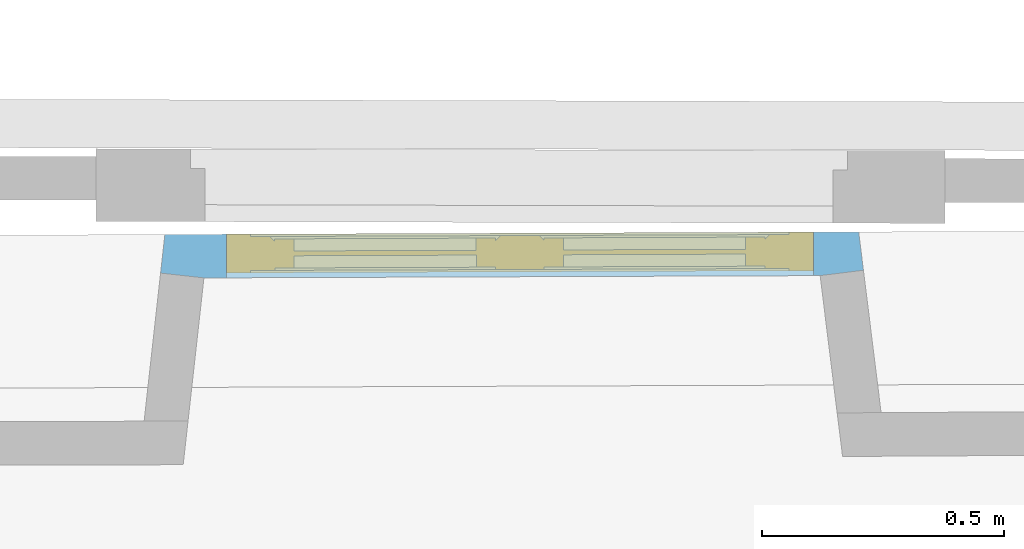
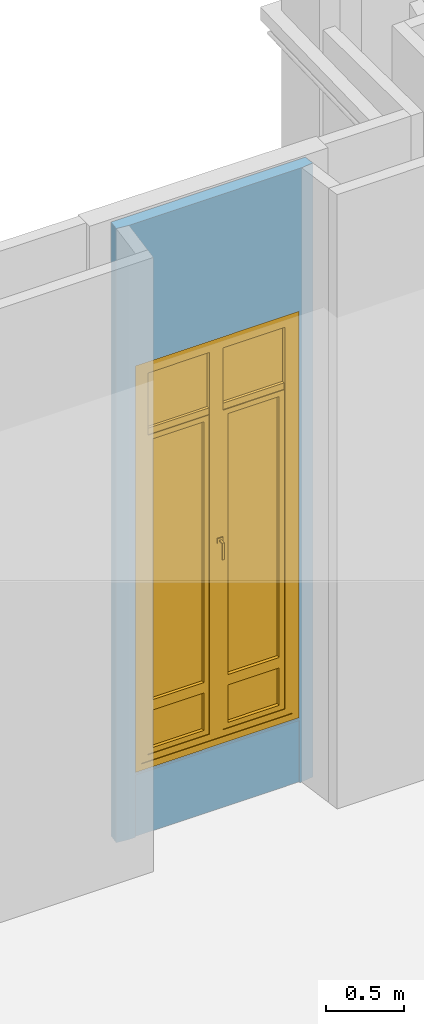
# One storey, part 68 of 97: 1 window, 2 openings, plus 1 element that does not belong to this part.
"""IFC2X3 building model written with IfcOpenShell, lengths in centimetres."""

from ifc_helpers import new_model, entity, si_unit, converted_unit, direction, frame, origin, origin_with_axes, place, context, subcontext, project, spatial, polyline, outline, extrude, faceted_brep, shape, source, transform, mapped, material, material_list, layer, layer_set, layer_usage, type_object, element, fill, save


model = new_model("IFC2X3")

# Units and contexts
model_context = context("Model", 3, precision=0.0001, world=origin(), true_north=direction((0.225632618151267, 0.974212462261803, 0.0)))
body_context = subcontext(model_context, "Body", "Model", "MODEL_VIEW")
footprint_context = subcontext(model_context, "FootPrint", "Model", "MODEL_VIEW")
profile_context = subcontext(model_context, "Profile", "Model", "MODEL_VIEW")
ifc_project = project(units=[si_unit("LENGTHUNIT", "METRE", prefix="CENTI"), si_unit("AREAUNIT", "SQUARE_METRE", prefix="CENTI"), si_unit("VOLUMEUNIT", "CUBIC_METRE", prefix="CENTI"), converted_unit("PLANEANGLEUNIT", "DEGREE", entity("IfcRatioMeasure", 0.0174532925), si_unit("PLANEANGLEUNIT", "RADIAN"), dimensions=[0, 0, 0, 0, 0, 0, 0])], contexts=[model_context])

# Site, building, storey
site_placement = place(None, origin_with_axes())
site = spatial("IfcSite", under=ifc_project, at=site_placement, Name="Default Site", CompositionType="ELEMENT")
building_placement = place(site_placement, origin_with_axes())
building = spatial("IfcBuilding", under=site, at=building_placement, Name="Default Building", CompositionType="ELEMENT")
storey_placement = place(building_placement, origin_with_axes())
storey = spatial("IfcBuildingStorey", under=building, at=storey_placement, Name="Rez-de-chaussée", CompositionType="ELEMENT", Elevation=0.0)

# Wall, openings, window
ifc_material_1 = material(Name="<aucun>")
ifc_layer = layer(ifc_material_1, 9.0)
ifc_layer_set = layer_set([ifc_layer], Name="default")
ifc_layer_usage = layer_usage(ifc_layer_set, "AXIS2", "POSITIVE", -4.5)
wall_type = type_object("IfcWallType", Name="default 90", PredefinedType="NOTDEFINED", material=ifc_layer_set)
wall_placement = place(storey_placement, frame((27.0714279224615, 588.961507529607, 0.0128503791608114), z_axis=(0.0, 0.0, 1.0), x_axis=(0.999993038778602, 0.0037312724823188, 0.0)))
wall = element("IfcWallStandardCase", 1, at=wall_placement, inside=storey, type_object=wall_type, material=ifc_layer_usage, Name="Enveloppe 669857", context=body_context, shape_type="SweptSolid", body=[
    extrude(outline(polyline([(-4.92854045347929, -3.47288254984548), (4.01265799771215, -4.50000000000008), (131.180335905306, -4.4999999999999), (140.115926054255, -3.4251843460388), (139.162646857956, 4.50000000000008), (-4.01265799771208, 4.50000000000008), (-4.92854045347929, -3.47288254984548)])), frame((0.0, 0.0, 5.42101086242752e-18), z_axis=(0.0, 0.0, 1.0), x_axis=(1.0, 0.0, 0.0)), (0.0, 0.0, 1.0), 477.795358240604),
])
opening_1_placement = place(wall_placement, frame((8.65726307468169, 1.13686837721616e-13, 8.88195766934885e-14), z_axis=(0.0, 0.0, 1.0), x_axis=(-1.0, 8.06646416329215e-17, 0.0)))
cartesian_point_1 = entity("IfcCartesianPoint", [0.0, 0.0, 48.5])
cartesian_point_2 = entity("IfcCartesianPoint", [-121.149203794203, -4.50000000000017])
element("IfcOpeningElement", 2, at=opening_1_placement, cuts=wall, Name="Baie 30040", ObjectType="Recess", shapes=[
    shape(body_context, "Body", "Brep", [faceted_brep([(8.06049327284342e-07, 24.4999907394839, -4.62696553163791e-10), (-121.149199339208, 24.4999907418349, -4.62696553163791e-10), (-121.149199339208, 24.4999907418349, 48.4999988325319), (8.06049327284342e-07, 24.4999907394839, 48.4999988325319), (8.05641805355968e-07, 3.499983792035, 48.4999988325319), (8.05641805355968e-07, 3.499983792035, -4.62696553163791e-10), (3.24016175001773e-07, 3.499983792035, -4.62696553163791e-10), (-121.149199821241, 3.49998284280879, -4.62696553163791e-10), (-121.149199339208, 24.4999897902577, -4.62696553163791e-10), (-121.149199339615, 3.49998284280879, -4.62696553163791e-10), (-121.149199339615, 3.49998284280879, 48.4999988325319), (-121.149199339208, 24.4999897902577, 48.4999988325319), (-121.149199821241, 3.49998284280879, 48.4999988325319), (3.24016175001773e-07, 3.499983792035, 48.4999988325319), (3.24016174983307e-07, 3.49998284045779, -4.62696553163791e-10), (3.24016174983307e-07, 3.49998284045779, 48.4999988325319)], [[[0, 1, 2, 3]], [[3, 4, 5, 0]], [[0, 6, 7, 8]], [[8, 9, 10, 11]], [[11, 12, 13, 3]], [[12, 7, 14, 15]]])]),
    shape(profile_context, "Profile", "GeometricCurveSet", [entity("IfcGeometricCurveSet", [entity("IfcPolyline", [cartesian_point_1, entity("IfcCartesianPoint", [0.0, 0.0, 0.0]), entity("IfcCartesianPoint", [-121.149203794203, -8.88178419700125e-14, 0.0]), entity("IfcCartesianPoint", [-121.149203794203, -8.88178419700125e-14, 48.5]), cartesian_point_1])])]),
    shape(footprint_context, "FootPrint", "GeometricCurveSet", [entity("IfcGeometricCurveSet", [entity("IfcPolyline", [cartesian_point_2, entity("IfcCartesianPoint", [0.0, -4.50000000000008]), entity("IfcCartesianPoint", [5.55111512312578e-15, 4.49999999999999]), entity("IfcCartesianPoint", [-121.149203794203, 4.49999999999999]), cartesian_point_2])])]),
])
opening_2_placement = place(wall_placement, frame((8.65726307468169, 1.13686837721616e-13, 49.8226471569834), z_axis=(0.0, 0.0, 1.0), x_axis=(-1.0, 8.06646416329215e-17, 0.0)))
cartesian_point_3 = entity("IfcCartesianPoint", [0.0, 0.0, 317.0])
cartesian_point_4 = entity("IfcCartesianPoint", [-121.149203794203, -4.50000000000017])
opening_2 = element("IfcOpeningElement", 3, at=opening_2_placement, cuts=wall, Name="4294966450_11", ObjectType="Opening", shapes=[
    shape(body_context, "Body", "SweptSolid", [extrude(outline(polyline([(0.0, 317.0), (0.0, 0.0), (121.149203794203, 0.0), (121.149203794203, 317.0), (0.0, 317.0)])), frame((0.0, -14.5, 0.0), z_axis=(0.0, 1.0, 0.0), x_axis=(-1.0, 0.0, 0.0)), (0.0, 0.0, 1.0), 29.0)]),
    shape(profile_context, "Profile", "GeometricCurveSet", [entity("IfcGeometricCurveSet", [entity("IfcPolyline", [cartesian_point_3, entity("IfcCartesianPoint", [0.0, 0.0, 0.0]), entity("IfcCartesianPoint", [-121.149203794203, -8.88178419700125e-14, 0.0]), entity("IfcCartesianPoint", [-121.149203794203, -8.88178419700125e-14, 317.0]), cartesian_point_3])])]),
    shape(footprint_context, "FootPrint", "GeometricCurveSet", [entity("IfcGeometricCurveSet", [entity("IfcPolyline", [cartesian_point_4, entity("IfcCartesianPoint", [0.0, -4.50000000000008]), entity("IfcCartesianPoint", [5.55111512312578e-15, 4.49999999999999]), entity("IfcCartesianPoint", [-121.149203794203, 4.49999999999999]), cartesian_point_4])])]),
])
ifc_material_2 = material(Name="Transparent")
ifc_material_3 = material(Name="Blanc trafic")
ifc_material_4 = material(Name="Aluminium satiné")
ifc_material_5 = material(Name="Blanc trafic")
ifc_material_list = material_list([ifc_material_2, ifc_material_3, ifc_material_4, ifc_material_5])
window_style = type_object("IfcWindowStyle", Name="FN[R] 2VB[2V] MM", ConstructionType="NOTDEFINED", OperationType="NOTDEFINED", ParameterTakesPrecedence=False, Sizeable=False, material=ifc_material_list)
shared_shape = source(origin_with_axes(), body_context, "Body", "Brep", [
    faceted_brep([(-55.5746018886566, 311.999988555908, -3.99999991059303), (-55.5746018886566, 311.999988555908, 3.99999991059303), (-55.5746018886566, 5.00000007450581, 3.99999991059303), (-55.5746018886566, 5.00000007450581, -3.99999991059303), (-60.5746030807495, 317.000007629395, 3.99999991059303), (-60.5746030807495, -1.11022302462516e-14, 3.99999991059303), (-60.5746030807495, 317.000007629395, -3.99999991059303), (-60.5746030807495, -1.11022302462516e-14, -3.99999991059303), (55.5746018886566, 5.00000007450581, 3.99999991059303), (55.5746018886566, 5.00000007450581, -3.99999991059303), (60.5746030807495, -1.11022302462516e-14, 3.99999991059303), (60.5746030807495, -1.11022302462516e-14, -3.99999991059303), (55.5746018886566, 311.999988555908, 3.99999991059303), (55.5746018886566, 311.999988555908, -3.99999991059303), (60.5746030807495, 317.000007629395, 3.99999991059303), (60.5746030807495, 317.000007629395, -3.99999991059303)], [[[0, 1, 2, 3]], [[1, 4, 5, 2]], [[4, 6, 7, 5]], [[6, 0, 3, 7]], [[3, 2, 8, 9]], [[2, 5, 10, 8]], [[5, 7, 11, 10]], [[7, 3, 9, 11]], [[9, 8, 12, 13]], [[8, 10, 14, 12]], [[10, 11, 15, 14]], [[11, 9, 13, 15]], [[13, 12, 1, 0]], [[12, 14, 4, 1]], [[14, 15, 6, 4]], [[15, 13, 0, 6]]]),
    faceted_brep([(-51.5745997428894, 307.999992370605, -3.50000001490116), (-50.5746002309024, 306.99999332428, -2.50000050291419), (-50.5746002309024, 10.0000001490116, -2.50000050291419), (-51.5745997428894, 9.00000035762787, -3.50000001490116), (-50.5746006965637, 306.99999332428, -2.5000000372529), (-50.5746006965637, 306.99999332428, 3.50000001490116), (-50.5746006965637, 10.0000001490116, 3.50000001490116), (-50.5746006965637, 10.0000001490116, -2.5000000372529), (-55.5746018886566, 311.999988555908, 3.50000001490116), (-55.5746018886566, 5.00000007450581, 3.50000001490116), (-55.5746018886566, 311.999988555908, -3.50000001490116), (-55.5746018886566, 5.00000007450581, -3.50000001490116), (-50.5746006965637, 10.0000002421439, -2.50000013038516), (-5.00000007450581, 10.0000002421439, -2.50000013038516), (-3.99999991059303, 9.00000035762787, -3.50000001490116), (-5.00000007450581, 10.0000001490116, 3.50000001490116), (-5.00000007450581, 10.0000001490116, -2.5000000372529), (-1.11022302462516e-14, 5.00000007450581, 3.50000001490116), (-1.11022302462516e-14, 5.00000007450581, -3.50000001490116), (-4.99999998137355, 10.0000001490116, -2.49999994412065), (-4.99999998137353, 306.99999332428, -2.49999994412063), (-3.99999991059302, 307.999992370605, -3.50000001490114), (-5.00000007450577, 306.99999332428, 3.50000001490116), (-5.00000007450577, 306.99999332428, -2.5000000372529), (1.11022302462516e-14, 311.999988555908, 3.50000001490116), (-5.00000007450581, 306.99999332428, 3.50000001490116), (1.11022285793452e-14, 311.999988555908, -3.50000001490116), (1.11022285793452e-14, 311.999988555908, 3.50000001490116), (-3.99999991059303, 307.999992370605, -3.50000001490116), (1.11022302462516e-14, 311.999988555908, -3.50000001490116), (-5.00000007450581, 306.999992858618, -2.5000005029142), (-50.5746006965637, 306.999992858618, -2.5000005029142), (-5.00000007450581, 306.99999332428, -2.5000000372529)], [[[0, 1, 2, 3]], [[4, 5, 6, 7]], [[5, 8, 9, 6]], [[8, 10, 11, 9]], [[10, 0, 3, 11]], [[3, 12, 13, 14]], [[7, 6, 15, 16]], [[6, 9, 17, 15]], [[9, 11, 18, 17]], [[11, 3, 14, 18]], [[14, 19, 20, 21]], [[16, 15, 22, 23]], [[15, 17, 24, 25]], [[17, 18, 26, 27]], [[18, 14, 28, 29]], [[28, 30, 31, 0]], [[32, 25, 5, 4]], [[25, 24, 8, 5]], [[24, 29, 10, 8]], [[29, 28, 0, 10]]]),
    faceted_brep([(-5.00000007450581, 306.99999332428, -0.499999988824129), (-5.00000007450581, 263.199996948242, -0.499999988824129), (-50.5746006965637, 263.199996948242, -0.499999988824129), (-50.5746006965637, 306.99999332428, -0.499999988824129), (-50.5746006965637, 306.99999332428, 0.499999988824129), (-50.5746006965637, 263.199996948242, 0.499999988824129), (-5.00000007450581, 263.199996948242, 0.499999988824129), (-5.00000007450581, 306.99999332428, 0.499999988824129)], [[[0, 1, 2, 3]], [[4, 5, 6, 7]], [[3, 2, 5, 4]], [[2, 1, 6, 5]], [[1, 0, 7, 6]], [[0, 3, 4, 7]]]),
    faceted_brep([(-5.00000007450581, 258.200001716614, 2.5000000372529), (-5.00000007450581, 258.200001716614, -2.5000000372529), (-5.00000007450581, 263.199996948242, -2.5000000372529), (-5.00000007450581, 263.199996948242, 2.5000000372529), (-50.5746006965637, 263.199996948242, 2.5000000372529), (-50.5746006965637, 263.199996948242, -2.5000000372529), (-50.5746006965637, 258.200001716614, -2.5000000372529), (-50.5746006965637, 258.200001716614, 2.5000000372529)], [[[0, 1, 2, 3]], [[4, 5, 6, 7]], [[3, 2, 5, 4]], [[2, 1, 6, 5]], [[1, 0, 7, 6]], [[0, 3, 4, 7]]]),
    faceted_brep([(-46.5746015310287, 254.200005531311, -2.99999993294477), (-46.5746015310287, 254.200005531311, 2.99999993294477), (-46.5746015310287, 51.230001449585, 2.99999993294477), (-46.5746015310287, 51.230001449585, -2.99999993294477), (-50.5746006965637, 258.200001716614, 2.99999993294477), (-50.5746006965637, 47.2299993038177, 2.99999993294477), (-50.5746006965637, 258.200001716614, -2.99999993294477), (-50.5746006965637, 47.2299993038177, -2.99999993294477), (-9.00000035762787, 51.230001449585, 2.99999993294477), (-9.00000035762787, 51.230001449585, -2.99999993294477), (-5.00000007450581, 47.2299993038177, 2.99999993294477), (-5.00000007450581, 47.2299993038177, -2.99999993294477), (-9.00000035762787, 254.200005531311, 2.99999993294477), (-9.00000035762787, 254.200005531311, -2.99999993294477), (-5.00000007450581, 258.200001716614, 2.99999993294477), (-5.0000000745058, 258.200001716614, -2.99999993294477), (-5.0000000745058, 258.200001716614, 2.99999993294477), (-5.00000007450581, 258.200001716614, -2.99999993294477)], [[[0, 1, 2, 3]], [[1, 4, 5, 2]], [[4, 6, 7, 5]], [[6, 0, 3, 7]], [[3, 2, 8, 9]], [[2, 5, 10, 8]], [[5, 7, 11, 10]], [[7, 3, 9, 11]], [[9, 8, 12, 13]], [[8, 10, 14, 12]], [[10, 11, 15, 16]], [[11, 9, 13, 17]], [[13, 12, 1, 0]], [[12, 14, 4, 1]], [[14, 17, 6, 4]], [[17, 13, 0, 6]]]),
    faceted_brep([(-9.00000035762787, 254.200005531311, -0.499999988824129), (-9.00000035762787, 51.230001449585, -0.499999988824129), (-46.5746015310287, 51.230001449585, -0.499999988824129), (-46.5746015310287, 254.200005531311, -0.499999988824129), (-46.5746015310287, 254.200005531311, 0.499999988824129), (-46.5746015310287, 51.230001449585, 0.499999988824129), (-9.00000035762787, 51.230001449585, 0.499999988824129), (-9.00000035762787, 254.200005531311, 0.499999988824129), (-9.00000035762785, 254.200005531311, -0.499999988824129), (-9.00000035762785, 254.200005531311, 0.499999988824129)], [[[0, 1, 2, 3]], [[4, 5, 6, 7]], [[3, 2, 5, 4]], [[2, 1, 6, 5]], [[1, 8, 9, 6]], [[0, 3, 4, 7]]]),
    faceted_brep([(-46.5746015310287, 43.2300001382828, -2.99999993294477), (-46.5746015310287, 43.2300001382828, 2.99999993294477), (-46.5746015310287, 14.0000000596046, 2.99999993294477), (-46.5746015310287, 14.0000000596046, -2.99999993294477), (-50.5746006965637, 47.2299993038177, 2.99999993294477), (-50.5746006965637, 10.0000001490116, 2.99999993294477), (-50.5746006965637, 47.2299993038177, -2.99999993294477), (-50.5746006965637, 10.0000001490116, -2.99999993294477), (-9.00000035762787, 14.0000000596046, 2.99999993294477), (-9.00000035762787, 14.0000000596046, -2.99999993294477), (-5.00000007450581, 10.0000001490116, 2.99999993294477), (-5.00000007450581, 10.0000001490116, -2.99999993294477), (-9.00000035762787, 43.2300001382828, 2.99999993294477), (-9.00000035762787, 43.2300001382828, -2.99999993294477), (-5.00000007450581, 47.2299993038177, 2.99999993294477), (-5.0000000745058, 47.2299993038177, -2.99999993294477), (-5.0000000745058, 47.2299993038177, 2.99999993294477), (-5.00000007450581, 47.2299993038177, -2.99999993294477)], [[[0, 1, 2, 3]], [[1, 4, 5, 2]], [[4, 6, 7, 5]], [[6, 0, 3, 7]], [[3, 2, 8, 9]], [[2, 5, 10, 8]], [[5, 7, 11, 10]], [[7, 3, 9, 11]], [[9, 8, 12, 13]], [[8, 10, 14, 12]], [[10, 11, 15, 16]], [[11, 9, 13, 17]], [[13, 12, 1, 0]], [[12, 14, 4, 1]], [[14, 17, 6, 4]], [[17, 13, 0, 6]]]),
    faceted_brep([(-9.00000035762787, 43.2300001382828, -0.499999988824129), (-9.00000035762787, 14.0000000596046, -0.499999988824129), (-46.5746015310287, 14.0000000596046, -0.499999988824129), (-46.5746015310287, 43.2300001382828, -0.499999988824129), (-46.5746015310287, 43.2300001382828, 0.499999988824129), (-46.5746015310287, 14.0000000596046, 0.499999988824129), (-9.00000035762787, 14.0000000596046, 0.499999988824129), (-9.00000035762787, 43.2300001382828, 0.499999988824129), (-9.00000035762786, 43.2300001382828, -0.499999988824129), (-9.00000035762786, 43.2300001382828, 0.499999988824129)], [[[0, 1, 2, 3]], [[4, 5, 6, 7]], [[3, 2, 5, 4]], [[2, 1, 6, 5]], [[1, 8, 9, 6]], [[0, 3, 4, 7]]]),
    faceted_brep([(3.99999991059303, 307.999992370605, -3.50000001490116), (4.99999998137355, 306.99999332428, -2.49999994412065), (4.99999998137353, 10.0000001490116, -2.49999994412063), (3.99999991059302, 9.00000035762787, -3.50000001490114), (5.00000007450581, 306.99999332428, -2.5000000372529), (5.00000007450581, 306.99999332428, 3.50000001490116), (5.00000007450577, 10.0000001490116, 3.50000001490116), (5.00000007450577, 10.0000001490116, -2.5000000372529), (1.11022302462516e-14, 311.999988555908, 3.50000001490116), (-1.11022302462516e-14, 5.00000007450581, 3.50000001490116), (5.00000007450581, 10.0000001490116, 3.50000001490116), (1.11022302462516e-14, 311.999988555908, -3.50000001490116), (-1.11022285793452e-14, 5.00000007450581, -3.50000001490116), (-1.11022285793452e-14, 5.00000007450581, 3.50000001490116), (3.99999991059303, 9.00000035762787, -3.50000001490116), (-1.11022302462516e-14, 5.00000007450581, -3.50000001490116), (5.00000007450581, 10.0000002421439, -2.50000013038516), (50.5746006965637, 10.0000002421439, -2.50000013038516), (51.5745997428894, 9.00000035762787, -3.50000001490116), (5.00000007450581, 10.0000001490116, -2.5000000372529), (50.5746006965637, 10.0000001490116, 3.50000001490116), (50.5746006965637, 10.0000001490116, -2.5000000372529), (55.5746018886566, 5.00000007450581, 3.50000001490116), (55.5746018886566, 5.00000007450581, -3.50000001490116), (50.5746002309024, 10.0000001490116, -2.50000050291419), (50.5746002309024, 306.99999332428, -2.50000050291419), (51.5745997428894, 307.999992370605, -3.50000001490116), (50.5746006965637, 306.99999332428, 3.50000001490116), (50.5746006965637, 306.99999332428, -2.5000000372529), (55.5746018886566, 311.999988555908, 3.50000001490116), (55.5746018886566, 311.999988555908, -3.50000001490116), (50.5746006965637, 306.999992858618, -2.5000005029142), (5.00000007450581, 306.999992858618, -2.50000050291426), (3.99999991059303, 307.999992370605, -3.50000001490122)], [[[0, 1, 2, 3]], [[4, 5, 6, 7]], [[5, 8, 9, 10]], [[8, 11, 12, 13]], [[11, 0, 14, 15]], [[14, 16, 17, 18]], [[19, 10, 20, 21]], [[10, 9, 22, 20]], [[9, 15, 23, 22]], [[15, 14, 18, 23]], [[18, 24, 25, 26]], [[21, 20, 27, 28]], [[20, 22, 29, 27]], [[22, 23, 30, 29]], [[23, 18, 26, 30]], [[26, 31, 32, 33]], [[28, 27, 5, 4]], [[27, 29, 8, 5]], [[29, 30, 11, 8]], [[30, 26, 0, 11]]]),
    faceted_brep([(4.50000017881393, 160.500001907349, 3.50000001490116), (4.50000017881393, 156.500005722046, 3.50000001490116), (0.499999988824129, 156.500005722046, 3.50000001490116), (0.499999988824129, 160.500001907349, 3.50000001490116), (0.499999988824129, 160.500001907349, 4.30000014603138), (0.499999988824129, 156.500005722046, 4.30000014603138), (4.50000017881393, 156.500005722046, 4.30000014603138), (4.50000017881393, 160.500001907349, 4.30000014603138)], [[[0, 1, 2, 3]], [[4, 5, 6, 7]], [[3, 2, 5, 4]], [[2, 1, 6, 5]], [[1, 0, 7, 6]], [[0, 3, 4, 7]]]),
    faceted_brep([(3.24999988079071, 159.00000333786, 4.30000014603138), (3.24999988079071, 158.000004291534, 4.30000014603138), (1.75000000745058, 158.000004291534, 4.30000014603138), (1.75000000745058, 159.00000333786, 4.30000014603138), (1.75000000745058, 159.00000333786, 8.29999968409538), (1.75000000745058, 158.000003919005, 7.30000026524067), (3.24999988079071, 158.000003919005, 7.30000026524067), (3.24999988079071, 159.00000333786, 8.29999968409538), (1.75000000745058, 158.000004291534, 7.29999989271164), (3.24999988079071, 158.000004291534, 7.29999989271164)], [[[0, 1, 2, 3]], [[4, 5, 6, 7]], [[3, 2, 8, 4]], [[2, 1, 9, 8]], [[1, 0, 7, 9]], [[0, 3, 4, 7]]]),
    faceted_brep([(3.24999988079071, 159.00000333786, 8.29999968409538), (3.24999988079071, 158.000003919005, 7.30000026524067), (1.75000000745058, 158.000003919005, 7.30000026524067), (1.75000000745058, 159.00000333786, 8.29999968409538), (1.75000000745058, 146.000003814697, 8.29999968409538), (1.75000000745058, 146.000003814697, 7.29999989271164), (3.24999988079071, 146.000003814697, 7.29999989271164), (3.24999988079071, 146.000003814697, 8.29999968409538), (1.75000000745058, 158.000004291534, 7.29999989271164), (3.24999988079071, 158.000004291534, 7.29999989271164)], [[[0, 1, 2, 3]], [[4, 5, 6, 7]], [[3, 8, 5, 4]], [[8, 9, 6, 5]], [[9, 0, 7, 6]], [[0, 3, 4, 7]]]),
    faceted_brep([(50.5746006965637, 306.99999332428, -0.499999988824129), (50.5746006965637, 263.199996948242, -0.499999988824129), (5.00000007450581, 263.199996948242, -0.499999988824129), (5.00000007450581, 306.99999332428, -0.499999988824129), (5.00000007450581, 306.99999332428, 0.499999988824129), (5.00000007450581, 263.199996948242, 0.499999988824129), (50.5746006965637, 263.199996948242, 0.499999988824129), (50.5746006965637, 306.99999332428, 0.499999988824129), (5.0000000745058, 263.199996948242, -0.499999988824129), (5.0000000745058, 263.199996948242, 0.499999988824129)], [[[0, 1, 2, 3]], [[4, 5, 6, 7]], [[3, 8, 9, 4]], [[2, 1, 6, 5]], [[1, 0, 7, 6]], [[0, 3, 4, 7]]]),
    faceted_brep([(50.5746006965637, 258.200001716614, 2.5000000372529), (50.5746006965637, 258.200001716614, -2.5000000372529), (50.5746006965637, 263.199996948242, -2.5000000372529), (50.5746006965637, 263.199996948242, 2.5000000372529), (5.00000007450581, 263.199996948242, 2.5000000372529), (5.00000007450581, 263.199996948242, -2.5000000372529), (5.00000007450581, 258.200001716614, -2.5000000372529), (5.00000007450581, 258.200001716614, 2.5000000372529)], [[[0, 1, 2, 3]], [[4, 5, 6, 7]], [[3, 2, 5, 4]], [[2, 1, 6, 5]], [[1, 0, 7, 6]], [[0, 3, 4, 7]]]),
    faceted_brep([(9.00000035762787, 254.200005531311, -2.99999993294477), (9.00000035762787, 254.200005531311, 2.99999993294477), (9.00000035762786, 51.230001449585, 2.99999993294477), (9.00000035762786, 51.230001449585, -2.99999993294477), (5.00000007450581, 258.200001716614, 2.99999993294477), (5.00000007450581, 47.2299993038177, 2.99999993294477), (9.00000035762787, 51.230001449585, 2.99999993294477), (5.00000007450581, 258.200001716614, -2.99999993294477), (5.0000000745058, 47.2299993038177, -2.99999993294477), (5.0000000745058, 47.2299993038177, 2.99999993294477), (9.00000035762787, 51.230001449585, -2.99999993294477), (5.00000007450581, 47.2299993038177, -2.99999993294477), (46.5746015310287, 51.230001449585, 2.99999993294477), (46.5746015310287, 51.230001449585, -2.99999993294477), (50.5746006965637, 47.2299993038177, 2.99999993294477), (50.5746006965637, 47.2299993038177, -2.99999993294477), (46.5746015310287, 254.200005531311, 2.99999993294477), (46.5746015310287, 254.200005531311, -2.99999993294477), (50.5746006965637, 258.200001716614, 2.99999993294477), (50.5746006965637, 258.200001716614, -2.99999993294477)], [[[0, 1, 2, 3]], [[1, 4, 5, 6]], [[4, 7, 8, 9]], [[7, 0, 10, 11]], [[10, 6, 12, 13]], [[6, 5, 14, 12]], [[5, 11, 15, 14]], [[11, 10, 13, 15]], [[13, 12, 16, 17]], [[12, 14, 18, 16]], [[14, 15, 19, 18]], [[15, 13, 17, 19]], [[17, 16, 1, 0]], [[16, 18, 4, 1]], [[18, 19, 7, 4]], [[19, 17, 0, 7]]]),
    faceted_brep([(46.5746015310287, 254.200005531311, -0.499999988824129), (46.5746015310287, 51.230001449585, -0.499999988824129), (9.00000035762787, 51.230001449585, -0.499999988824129), (9.00000035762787, 254.200005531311, -0.499999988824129), (9.00000035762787, 254.200005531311, 0.499999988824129), (9.00000035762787, 51.230001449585, 0.499999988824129), (46.5746015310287, 51.230001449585, 0.499999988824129), (46.5746015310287, 254.200005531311, 0.499999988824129), (9.00000035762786, 51.230001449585, -0.499999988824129), (9.00000035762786, 51.230001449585, 0.499999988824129)], [[[0, 1, 2, 3]], [[4, 5, 6, 7]], [[3, 8, 9, 4]], [[2, 1, 6, 5]], [[1, 0, 7, 6]], [[0, 3, 4, 7]]]),
    faceted_brep([(9.00000035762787, 43.2300001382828, -2.99999993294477), (9.00000035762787, 43.2300001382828, 2.99999993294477), (9.00000035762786, 14.0000000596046, 2.99999993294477), (9.00000035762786, 14.0000000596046, -2.99999993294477), (5.00000007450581, 47.2299993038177, 2.99999993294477), (5.00000007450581, 10.0000001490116, 2.99999993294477), (9.00000035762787, 14.0000000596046, 2.99999993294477), (5.00000007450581, 47.2299993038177, -2.99999993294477), (5.00000007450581, 10.0000001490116, -2.99999993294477), (9.00000035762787, 14.0000000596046, -2.99999993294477), (46.5746015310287, 14.0000000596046, 2.99999993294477), (46.5746015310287, 14.0000000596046, -2.99999993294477), (50.5746006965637, 10.0000001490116, 2.99999993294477), (50.5746006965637, 10.0000001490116, -2.99999993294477), (46.5746015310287, 43.2300001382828, 2.99999993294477), (46.5746015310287, 43.2300001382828, -2.99999993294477), (50.5746006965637, 47.2299993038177, 2.99999993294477), (50.5746006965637, 47.2299993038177, -2.99999993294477)], [[[0, 1, 2, 3]], [[1, 4, 5, 6]], [[4, 7, 8, 5]], [[7, 0, 9, 8]], [[9, 6, 10, 11]], [[6, 5, 12, 10]], [[5, 8, 13, 12]], [[8, 9, 11, 13]], [[11, 10, 14, 15]], [[10, 12, 16, 14]], [[12, 13, 17, 16]], [[13, 11, 15, 17]], [[15, 14, 1, 0]], [[14, 16, 4, 1]], [[16, 17, 7, 4]], [[17, 15, 0, 7]]]),
    faceted_brep([(46.5746015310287, 43.2300001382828, -0.499999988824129), (46.5746015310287, 14.0000000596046, -0.499999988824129), (9.00000035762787, 14.0000000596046, -0.499999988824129), (9.00000035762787, 43.2300001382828, -0.499999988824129), (9.00000035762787, 43.2300001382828, 0.499999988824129), (9.00000035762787, 14.0000000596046, 0.499999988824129), (46.5746015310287, 14.0000000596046, 0.499999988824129), (46.5746015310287, 43.2300001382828, 0.499999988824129), (9.00000035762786, 14.0000000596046, -0.499999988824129), (9.00000035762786, 14.0000000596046, 0.499999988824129)], [[[0, 1, 2, 3]], [[4, 5, 6, 7]], [[3, 8, 9, 4]], [[2, 1, 6, 5]], [[1, 0, 7, 6]], [[0, 3, 4, 7]]]),
])
window_placement = place(opening_2_placement, frame((-121.149203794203, -4.49999999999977, 7.105427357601e-15), z_axis=(0.0, 0.0, 1.0), x_axis=(1.0, 0.0, 0.0)))
window = element("IfcWindow", 4, at=window_placement, inside=storey, type_object=window_style, material=ifc_material_list, Name="Fenêtre 23856", OverallHeight=317.0, OverallWidth=121.149203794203, context=body_context, shape_type="MappedRepresentation", body=[
    mapped(shared_shape, transform((60.5746018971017, 4.00000000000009, 0.0), x_axis=(-1.0, 0.0, 0.0), y_axis=(0.0, 0.0, 1.0), z_axis=(0.0, 1.0, 0.0), scale=1.0, scale2=1.0, scale3=1.0, uniform=False)),
])
fill(opening_2, window)

save(model, "model.ifc")
